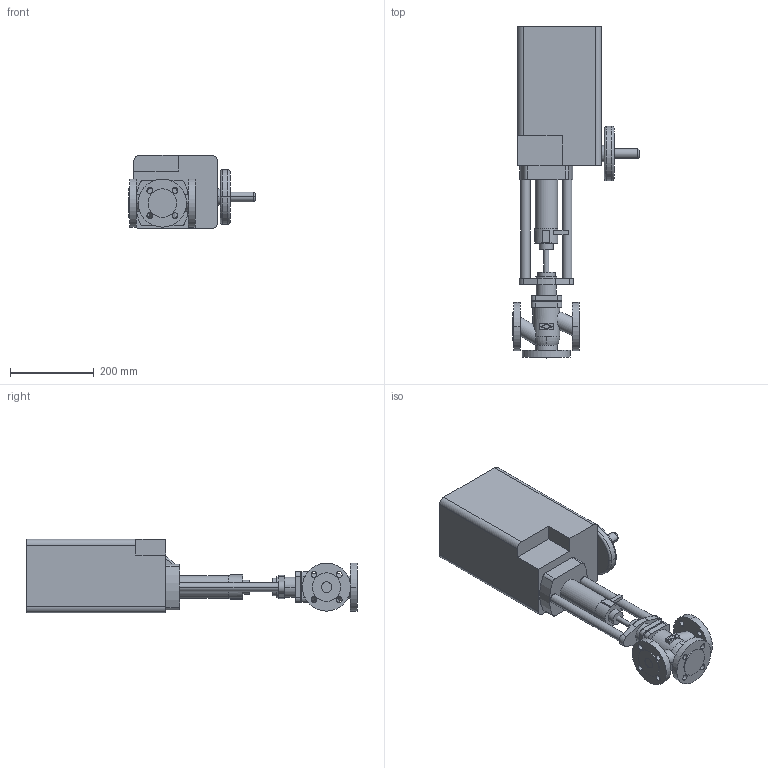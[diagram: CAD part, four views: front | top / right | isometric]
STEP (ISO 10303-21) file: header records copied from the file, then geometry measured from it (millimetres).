
FILE_DESCRIPTION(('OneSpaceDesigner STEP Export'),'2;1');
FILE_NAME('c000002417.stp','2006-09-19T12:09:01',(''),(''),'OneSpace Designer STEP processor for AP214 (Solid Model)','OneSpace Designer 13.20A 18-Aug-2005 (C) CoCreate Software GmbH','');
FILE_SCHEMA(('AUTOMOTIVE_DESIGN { 1 0 10303 214 1 1 1 1 }'));
Length unit declared in the file: millimetre
Products named in the file (2): 1; 2
Bounding box: 301.6 x 792.5 x 175 mm (x, y, z)
Volume: 13865241.6 mm3; surface area: 577125.4 mm2
Topology: 2 solids, 2 shells, 194 faces, 477 edges, 317 vertices
Faces by surface type: cylinder 100, plane 86, torus 8
Entity records: 5588 total; most frequent: CARTESIAN_POINT 1226, ORIENTED_EDGE 954, DIRECTION 813, EDGE_CURVE 477, VERTEX_POINT 317, AXIS2_PLACEMENT_3D 289, EDGE_LOOP 248, VECTOR 235
